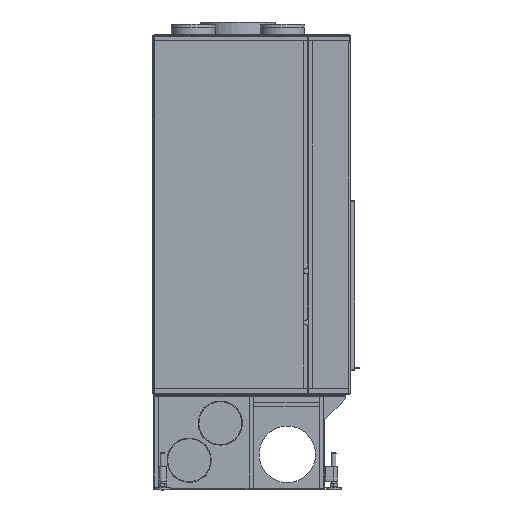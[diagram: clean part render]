
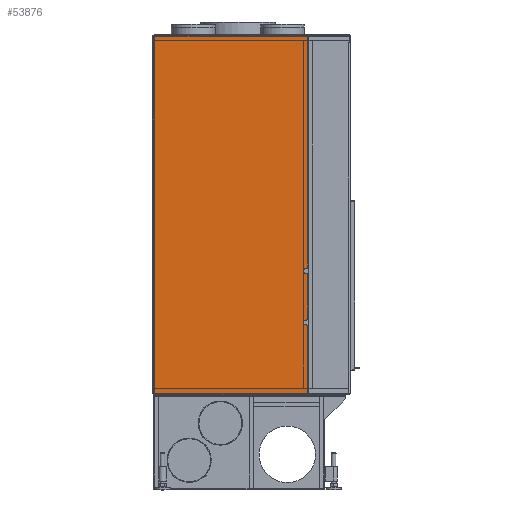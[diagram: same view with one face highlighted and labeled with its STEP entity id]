
A CAD part, left-side view. The second image highlights one B-rep face of the part: STEP entity #53876.
In plain terms, the highlighted planar face has unit normal (-1, 0, 0).
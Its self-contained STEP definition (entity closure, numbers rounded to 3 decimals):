
#4036=FACE_OUTER_BOUND($,#7037,.T.);
#7037=EDGE_LOOP($,(#44166,#44167,#44168,#44169,#44170,#44171,#44172,#44173,
#44174,#44175,#44176,#44177,#44178,#44179,#44180,#44181,#44182,#44183,#44184,
#44185,#44186,#44187));
#9206=CIRCLE($,#58340,6.);
#9207=CIRCLE($,#58341,6.);
#9208=CIRCLE($,#58342,6.);
#9209=CIRCLE($,#58343,6.);
#9210=CIRCLE($,#58344,6.);
#9211=CIRCLE($,#58345,6.);
#9212=CIRCLE($,#58346,6.);
#9213=CIRCLE($,#58347,6.);
#9214=CIRCLE($,#58348,2.);
#9215=CIRCLE($,#58349,2.);
#13820=LINE($,#88434,#19025);
#13821=LINE($,#88438,#19026);
#13822=LINE($,#88442,#19027);
#13823=LINE($,#88446,#19028);
#13824=LINE($,#88450,#19029);
#13825=LINE($,#88454,#19030);
#13826=LINE($,#88458,#19031);
#13827=LINE($,#88462,#19032);
#13828=LINE($,#88466,#19033);
#13829=LINE($,#88468,#19034);
#13830=LINE($,#88470,#19035);
#13831=LINE($,#88473,#19036);
#19025=VECTOR($,#71227,2.);
#19026=VECTOR($,#71230,4.);
#19027=VECTOR($,#71233,2.);
#19028=VECTOR($,#71236,144.445);
#19029=VECTOR($,#71239,2.);
#19030=VECTOR($,#71242,4.);
#19031=VECTOR($,#71245,2.);
#19032=VECTOR($,#71248,775.778);
#19033=VECTOR($,#71251,514.85);
#19034=VECTOR($,#71252,1203.5);
#19035=VECTOR($,#71253,514.85);
#19036=VECTOR($,#71256,223.278);
#24034=VERTEX_POINT($,#88430);
#24035=VERTEX_POINT($,#88431);
#24036=VERTEX_POINT($,#88433);
#24037=VERTEX_POINT($,#88435);
#24038=VERTEX_POINT($,#88437);
#24039=VERTEX_POINT($,#88439);
#24040=VERTEX_POINT($,#88441);
#24041=VERTEX_POINT($,#88443);
#24042=VERTEX_POINT($,#88445);
#24043=VERTEX_POINT($,#88447);
#24044=VERTEX_POINT($,#88449);
#24045=VERTEX_POINT($,#88451);
#24046=VERTEX_POINT($,#88453);
#24047=VERTEX_POINT($,#88455);
#24048=VERTEX_POINT($,#88457);
#24049=VERTEX_POINT($,#88459);
#24050=VERTEX_POINT($,#88461);
#24051=VERTEX_POINT($,#88463);
#24052=VERTEX_POINT($,#88465);
#24053=VERTEX_POINT($,#88467);
#24054=VERTEX_POINT($,#88469);
#24055=VERTEX_POINT($,#88471);
#30926=EDGE_CURVE($,#24034,#24035,#9206,.T.);
#30927=EDGE_CURVE($,#24034,#24036,#13820,.T.);
#30928=EDGE_CURVE($,#24037,#24036,#9207,.T.);
#30929=EDGE_CURVE($,#24037,#24038,#13821,.T.);
#30930=EDGE_CURVE($,#24039,#24038,#9208,.T.);
#30931=EDGE_CURVE($,#24039,#24040,#13822,.T.);
#30932=EDGE_CURVE($,#24041,#24040,#9209,.T.);
#30933=EDGE_CURVE($,#24041,#24042,#13823,.T.);
#30934=EDGE_CURVE($,#24043,#24042,#9210,.T.);
#30935=EDGE_CURVE($,#24043,#24044,#13824,.T.);
#30936=EDGE_CURVE($,#24045,#24044,#9211,.T.);
#30937=EDGE_CURVE($,#24045,#24046,#13825,.T.);
#30938=EDGE_CURVE($,#24047,#24046,#9212,.T.);
#30939=EDGE_CURVE($,#24047,#24048,#13826,.T.);
#30940=EDGE_CURVE($,#24049,#24048,#9213,.T.);
#30941=EDGE_CURVE($,#24049,#24050,#13827,.T.);
#30942=EDGE_CURVE($,#24051,#24050,#9214,.T.);
#30943=EDGE_CURVE($,#24051,#24052,#13828,.T.);
#30944=EDGE_CURVE($,#24052,#24053,#13829,.T.);
#30945=EDGE_CURVE($,#24053,#24054,#13830,.T.);
#30946=EDGE_CURVE($,#24055,#24054,#9215,.T.);
#30947=EDGE_CURVE($,#24055,#24035,#13831,.T.);
#44166=ORIENTED_EDGE($,*,*,#30926,.F.);
#44167=ORIENTED_EDGE($,*,*,#30927,.T.);
#44168=ORIENTED_EDGE($,*,*,#30928,.F.);
#44169=ORIENTED_EDGE($,*,*,#30929,.T.);
#44170=ORIENTED_EDGE($,*,*,#30930,.F.);
#44171=ORIENTED_EDGE($,*,*,#30931,.T.);
#44172=ORIENTED_EDGE($,*,*,#30932,.F.);
#44173=ORIENTED_EDGE($,*,*,#30933,.T.);
#44174=ORIENTED_EDGE($,*,*,#30934,.F.);
#44175=ORIENTED_EDGE($,*,*,#30935,.T.);
#44176=ORIENTED_EDGE($,*,*,#30936,.F.);
#44177=ORIENTED_EDGE($,*,*,#30937,.T.);
#44178=ORIENTED_EDGE($,*,*,#30938,.F.);
#44179=ORIENTED_EDGE($,*,*,#30939,.T.);
#44180=ORIENTED_EDGE($,*,*,#30940,.F.);
#44181=ORIENTED_EDGE($,*,*,#30941,.T.);
#44182=ORIENTED_EDGE($,*,*,#30942,.F.);
#44183=ORIENTED_EDGE($,*,*,#30943,.T.);
#44184=ORIENTED_EDGE($,*,*,#30944,.T.);
#44185=ORIENTED_EDGE($,*,*,#30945,.T.);
#44186=ORIENTED_EDGE($,*,*,#30946,.F.);
#44187=ORIENTED_EDGE($,*,*,#30947,.T.);
#48508=PLANE($,#58339);
#53876=ADVANCED_FACE($,(#4036),#48508,.F.);
#58339=AXIS2_PLACEMENT_3D($,#88429,#71223,#71224);
#58340=AXIS2_PLACEMENT_3D($,#88432,#71225,#71226);
#58341=AXIS2_PLACEMENT_3D($,#88436,#71228,#71229);
#58342=AXIS2_PLACEMENT_3D($,#88440,#71231,#71232);
#58343=AXIS2_PLACEMENT_3D($,#88444,#71234,#71235);
#58344=AXIS2_PLACEMENT_3D($,#88448,#71237,#71238);
#58345=AXIS2_PLACEMENT_3D($,#88452,#71240,#71241);
#58346=AXIS2_PLACEMENT_3D($,#88456,#71243,#71244);
#58347=AXIS2_PLACEMENT_3D($,#88460,#71246,#71247);
#58348=AXIS2_PLACEMENT_3D($,#88464,#71249,#71250);
#58349=AXIS2_PLACEMENT_3D($,#88472,#71254,#71255);
#71223=DIRECTION('center_axis',(1.,0.,0.));
#71224=DIRECTION('ref_axis',(0.,0.,
-1.));
#71225=DIRECTION('center_axis',(1.,0.,0.));
#71226=DIRECTION('ref_axis',(0.,-0.707,0.707));
#71227=DIRECTION($,(0.,1.,0.));
#71228=DIRECTION('center_axis',(-1.,0.,0.));
#71229=DIRECTION('ref_axis',(0.,0.707,-0.707));
#71230=DIRECTION($,(0.,0.,1.));
#71231=DIRECTION('center_axis',(-1.,0.,0.));
#71232=DIRECTION('ref_axis',(0.,0.707,0.707));
#71233=DIRECTION($,(0.,-1.,0.));
#71234=DIRECTION('center_axis',(1.,0.,0.));
#71235=DIRECTION('ref_axis',(0.,-0.707,
-0.707));
#71236=DIRECTION($,(0.,0.,1.));
#71237=DIRECTION('center_axis',(1.,0.,0.));
#71238=DIRECTION('ref_axis',(0.,-0.707,0.707));
#71239=DIRECTION($,(0.,1.,0.));
#71240=DIRECTION('center_axis',(-1.,0.,0.));
#71241=DIRECTION('ref_axis',(0.,0.707,-0.707));
#71242=DIRECTION($,(0.,0.,1.));
#71243=DIRECTION('center_axis',(-1.,0.,0.));
#71244=DIRECTION('ref_axis',(0.,0.707,0.707));
#71245=DIRECTION($,(0.,-1.,0.));
#71246=DIRECTION('center_axis',(1.,0.,0.));
#71247=DIRECTION('ref_axis',(0.,-0.707,
-0.707));
#71248=DIRECTION($,(0.,0.,1.));
#71249=DIRECTION('center_axis',(1.,0.,0.));
#71250=DIRECTION('ref_axis',(0.,-0.707,0.707));
#71251=DIRECTION($,(0.,1.,0.));
#71252=DIRECTION($,(0.,0.,-1.));
#71253=DIRECTION($,(0.,-1.,0.));
#71254=DIRECTION('center_axis',(1.,0.,0.));
#71255=DIRECTION('ref_axis',(0.,-0.707,
-0.707));
#71256=DIRECTION($,(0.,0.,1.));
#88429=CARTESIAN_POINT('Origin',(-443.25,35.684,921.329));
#88430=CARTESIAN_POINT('',(-443.25,-216.741,550.856));
#88431=CARTESIAN_POINT('',(-443.25,-222.741,544.856));
#88432=CARTESIAN_POINT('Origin',(-443.25,-216.741,544.856));
#88433=CARTESIAN_POINT('',(-443.25,-214.741,550.856));
#88434=CARTESIAN_POINT($,(-443.25,-86.529,550.856));
#88435=CARTESIAN_POINT('',(-443.25,-208.741,556.856));
#88436=CARTESIAN_POINT('Origin',(-443.25,-214.741,556.856));
#88437=CARTESIAN_POINT('',(-443.25,-208.741,560.856));
#88438=CARTESIAN_POINT($,(-443.25,-208.741,744.092));
#88439=CARTESIAN_POINT('',(-443.25,-214.741,566.856));
#88440=CARTESIAN_POINT('Origin',(-443.25,-214.741,560.856));
#88441=CARTESIAN_POINT('',(-443.25,-216.741,566.856));
#88442=CARTESIAN_POINT($,(-443.25,-93.529,566.856));
#88443=CARTESIAN_POINT('',(-443.25,-222.741,572.856));
#88444=CARTESIAN_POINT('Origin',(-443.25,-216.741,572.856));
#88445=CARTESIAN_POINT('',(-443.25,-222.741,717.301));
#88446=CARTESIAN_POINT($,(-443.25,-222.741,319.579));
#88447=CARTESIAN_POINT('',(-443.25,-216.741,723.301));
#88448=CARTESIAN_POINT('Origin',(-443.25,-216.741,717.301));
#88449=CARTESIAN_POINT('',(-443.25,-214.741,723.301));
#88450=CARTESIAN_POINT($,(-443.25,-86.529,723.301));
#88451=CARTESIAN_POINT('',(-443.25,-208.741,729.301));
#88452=CARTESIAN_POINT('Origin',(-443.25,-214.741,729.301));
#88453=CARTESIAN_POINT('',(-443.25,-208.741,733.301));
#88454=CARTESIAN_POINT($,(-443.25,-208.741,830.315));
#88455=CARTESIAN_POINT('',(-443.25,-214.741,739.301));
#88456=CARTESIAN_POINT('Origin',(-443.25,-214.741,733.301));
#88457=CARTESIAN_POINT('',(-443.25,-216.741,739.301));
#88458=CARTESIAN_POINT($,(-443.25,-93.529,739.301));
#88459=CARTESIAN_POINT('',(-443.25,-222.741,745.301));
#88460=CARTESIAN_POINT('Origin',(-443.25,-216.741,745.301));
#88461=CARTESIAN_POINT('',(-443.25,-222.741,1521.079));
#88462=CARTESIAN_POINT($,(-443.25,-222.741,319.579));
#88463=CARTESIAN_POINT('',(-443.25,-220.741,1523.079));
#88464=CARTESIAN_POINT('Origin',(-443.25,-220.741,1521.079));
#88465=CARTESIAN_POINT('',(-443.25,294.109,1523.079));
#88466=CARTESIAN_POINT($,(-443.25,-222.741,1523.079));
#88467=CARTESIAN_POINT('',(-443.25,294.109,319.579));
#88468=CARTESIAN_POINT($,(-443.25,294.109,1523.079));
#88469=CARTESIAN_POINT('',(-443.25,-220.741,319.579));
#88470=CARTESIAN_POINT($,(-443.25,294.109,319.579));
#88471=CARTESIAN_POINT('',(-443.25,-222.741,321.579));
#88472=CARTESIAN_POINT('Origin',(-443.25,-220.741,321.579));
#88473=CARTESIAN_POINT($,(-443.25,-222.741,319.579));
